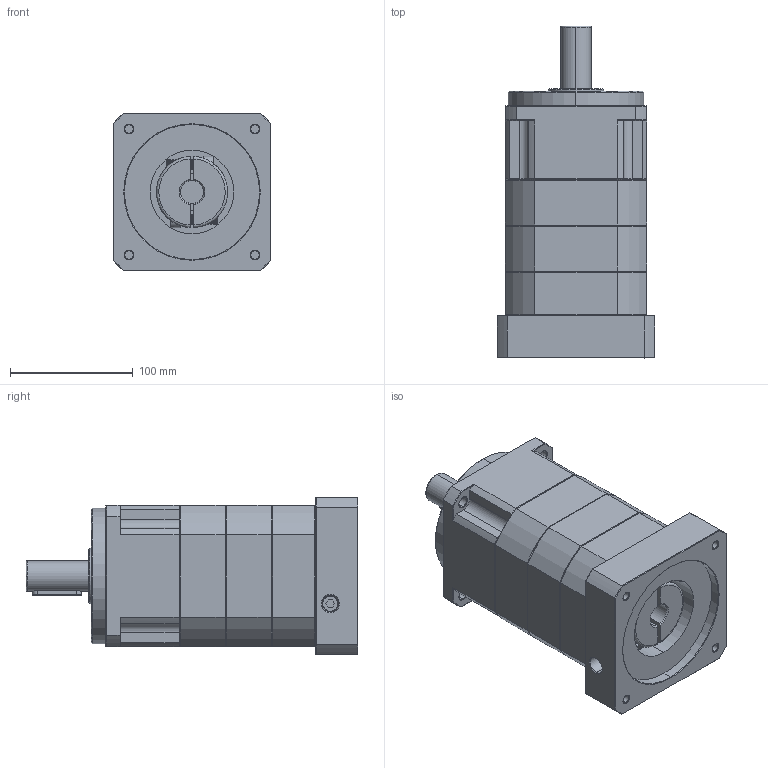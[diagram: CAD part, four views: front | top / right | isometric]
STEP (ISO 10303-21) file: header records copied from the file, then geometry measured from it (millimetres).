
FILE_DESCRIPTION (( 'STEP AP214' ), '1' );
FILE_NAME ('ZPB115-D25-L3-P1-19-110-145-M8.step', '2024-06-11T19:28:50', ( 'Windows 蚚誧' ), ( 'Organization' ), 'SwSTEP 2.0', 'SolidWorks 2016', '' );
FILE_SCHEMA (( 'AUTOMOTIVE_DESIGN' ));
Length unit declared in the file: millimetre
Products named in the file (1): ZPB115-D25-L3-P1-19-110-145-M8
Bounding box: 128 x 270 x 128 mm (x, y, z)
Surface area: 168642.1 mm2 (no closed solid volume)
Topology: 0 solids, 29 shells, 1830 faces, 4931 edges, 3161 vertices
Faces by surface type: plane 940, bspline 381, cone 282, cylinder 227
Full cylindrical faces by diameter (mm): 10.2 x1
Entity records: 98750 total; most frequent: CARTESIAN_POINT 49014, ORIENTED_EDGE 9832, DIRECTION 7540, EDGE_CURVE 4925, VECTOR 3180, LINE 3180, VERTEX_POINT 3159, AXIS2_PLACEMENT_3D 2180
